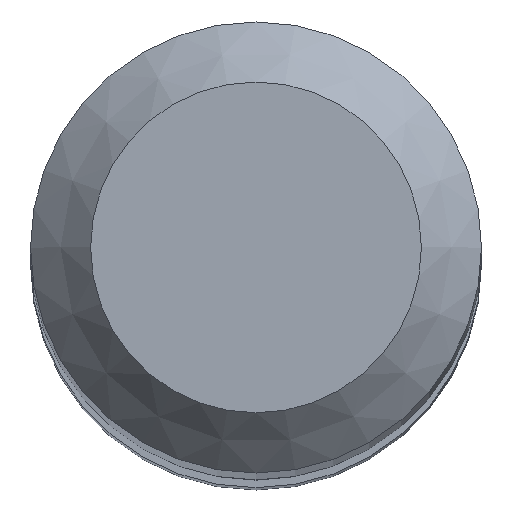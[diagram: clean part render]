
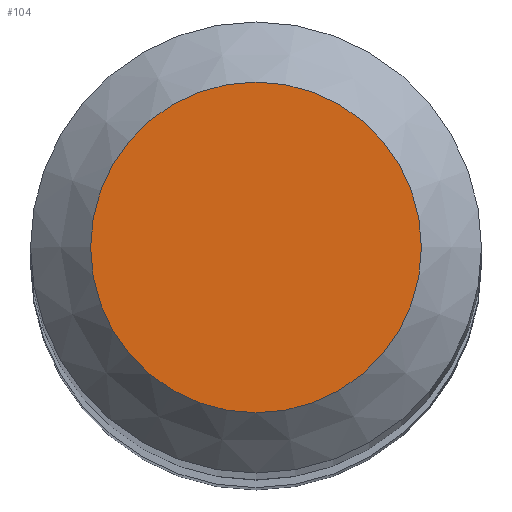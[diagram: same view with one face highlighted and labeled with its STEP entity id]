
A CAD part, top view. The second image highlights one B-rep face of the part: STEP entity #104.
In plain terms, the highlighted planar face has unit normal (0, 0, 1).
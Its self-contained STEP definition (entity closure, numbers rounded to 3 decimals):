
#88=CARTESIAN_POINT('',(2.2,0.0,130.0));
#89=DIRECTION('',(0.0,0.0,1.0));
#90=DIRECTION('',(1.0,0.0,0.0));
#91=AXIS2_PLACEMENT_3D('',#88,#89,#90);
#92=PLANE('',#91);
#93=CARTESIAN_POINT('',(-2.2,0.0,130.0));
#94=VERTEX_POINT('',#93);
#95=CARTESIAN_POINT('',(0.0,0.0,130.0));
#96=DIRECTION('',(0.0,0.0,-1.0));
#97=DIRECTION('',(-1.0,0.0,0.0));
#98=AXIS2_PLACEMENT_3D('',#95,#96,#97);
#99=CIRCLE('',#98,2.2);
#100=EDGE_CURVE('',#94,#94,#99,.T.);
#101=ORIENTED_EDGE('',*,*,#100,.F.);
#102=EDGE_LOOP('',(#101));
#103=FACE_OUTER_BOUND('',#102,.T.);
#104=ADVANCED_FACE('',(#103),#92,.T.);
